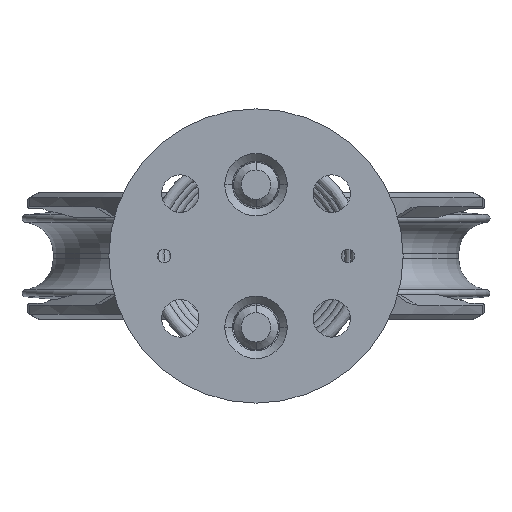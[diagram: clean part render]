
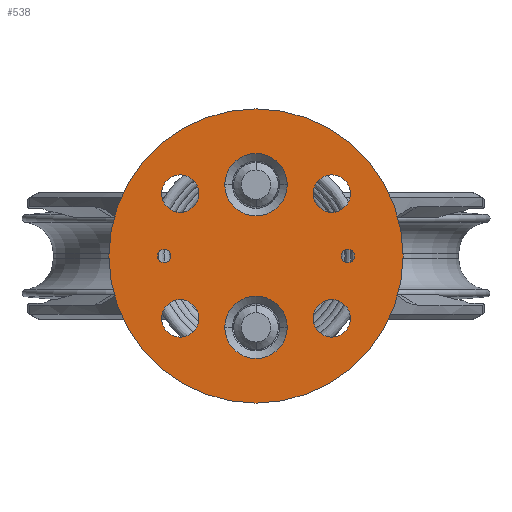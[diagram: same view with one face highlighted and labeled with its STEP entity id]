
A CAD part, front view. The second image highlights one B-rep face of the part: STEP entity #538.
In plain terms, the highlighted planar face has unit normal (0, -1, 0).
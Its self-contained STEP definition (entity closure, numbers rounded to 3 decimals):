
#1=CARTESIAN_POINT('',(-17.,0.,14.));
#2=DIRECTION('',(0.,-1.,0.));
#3=DIRECTION('',(1.,0.,0.));
#4=AXIS2_PLACEMENT_3D('',#1,#2,#3);
#6=CARTESIAN_POINT('',(-17.,0.,14.));
#7=DIRECTION('',(0.,-1.,0.));
#8=DIRECTION('',(-1.,0.,0.));
#9=AXIS2_PLACEMENT_3D('',#6,#7,#8);
#11=CARTESIAN_POINT('',(17.,0.,14.));
#12=DIRECTION('',(0.,-1.,0.));
#13=DIRECTION('',(1.,0.,0.));
#14=AXIS2_PLACEMENT_3D('',#11,#12,#13);
#16=CARTESIAN_POINT('',(17.,0.,14.));
#17=DIRECTION('',(0.,-1.,0.));
#18=DIRECTION('',(-1.,0.,0.));
#19=AXIS2_PLACEMENT_3D('',#16,#17,#18);
#21=CARTESIAN_POINT('',(17.,0.,-14.));
#22=DIRECTION('',(0.,-1.,0.));
#23=DIRECTION('',(1.,0.,0.));
#24=AXIS2_PLACEMENT_3D('',#21,#22,#23);
#26=CARTESIAN_POINT('',(17.,0.,-14.));
#27=DIRECTION('',(0.,-1.,0.));
#28=DIRECTION('',(-1.,0.,0.));
#29=AXIS2_PLACEMENT_3D('',#26,#27,#28);
#31=CARTESIAN_POINT('',(-17.,0.,-14.));
#32=DIRECTION('',(0.,-1.,0.));
#33=DIRECTION('',(1.,0.,0.));
#34=AXIS2_PLACEMENT_3D('',#31,#32,#33);
#36=CARTESIAN_POINT('',(-17.,0.,-14.));
#37=DIRECTION('',(0.,-1.,0.));
#38=DIRECTION('',(-1.,0.,0.));
#39=AXIS2_PLACEMENT_3D('',#36,#37,#38);
#41=CARTESIAN_POINT('',(-20.6,0.,0.));
#42=DIRECTION('',(0.,-1.,0.));
#43=DIRECTION('',(1.,0.,0.));
#44=AXIS2_PLACEMENT_3D('',#41,#42,#43);
#46=CARTESIAN_POINT('',(-20.6,0.,0.));
#47=DIRECTION('',(0.,-1.,0.));
#48=DIRECTION('',(-1.,0.,0.));
#49=AXIS2_PLACEMENT_3D('',#46,#47,#48);
#51=CARTESIAN_POINT('',(20.6,0.,0.));
#52=DIRECTION('',(0.,-1.,0.));
#53=DIRECTION('',(1.,0.,0.));
#54=AXIS2_PLACEMENT_3D('',#51,#52,#53);
#56=CARTESIAN_POINT('',(20.6,0.,0.));
#57=DIRECTION('',(0.,-1.,0.));
#58=DIRECTION('',(-1.,0.,0.));
#59=AXIS2_PLACEMENT_3D('',#56,#57,#58);
#69=CARTESIAN_POINT('',(0.,0.,0.));
#70=DIRECTION('',(0.,1.,0.));
#71=DIRECTION('',(1.,0.,0.));
#72=AXIS2_PLACEMENT_3D('',#69,#70,#71);
#74=CARTESIAN_POINT('',(0.,0.,0.));
#75=DIRECTION('',(0.,-1.,0.));
#76=DIRECTION('',(1.,0.,0.));
#77=AXIS2_PLACEMENT_3D('',#74,#75,#76);
#151=CARTESIAN_POINT('',(0.,0.,16.));
#152=DIRECTION('',(0.,-1.,0.));
#153=DIRECTION('',(1.,0.,0.));
#154=AXIS2_PLACEMENT_3D('',#151,#152,#153);
#161=CARTESIAN_POINT('',(0.,0.,16.));
#162=DIRECTION('',(0.,-1.,0.));
#163=DIRECTION('',(-1.,0.,0.));
#164=AXIS2_PLACEMENT_3D('',#161,#162,#163);
#187=CARTESIAN_POINT('',(0.,0.,-16.));
#188=DIRECTION('',(0.,-1.,0.));
#189=DIRECTION('',(1.,0.,0.));
#190=AXIS2_PLACEMENT_3D('',#187,#188,#189);
#197=CARTESIAN_POINT('',(0.,0.,-16.));
#198=DIRECTION('',(0.,-1.,0.));
#199=DIRECTION('',(-1.,0.,0.));
#200=AXIS2_PLACEMENT_3D('',#197,#198,#199);
#379=CARTESIAN_POINT('',(33.,0.,0.));
#381=VERTEX_POINT('',#379);
#385=CARTESIAN_POINT('',(-33.,0.,0.));
#387=VERTEX_POINT('',#385);
#391=CARTESIAN_POINT('',(-12.8,0.,14.));
#392=CARTESIAN_POINT('',(-21.2,0.,14.));
#393=VERTEX_POINT('',#391);
#394=VERTEX_POINT('',#392);
#395=CARTESIAN_POINT('',(21.2,0.,14.));
#396=CARTESIAN_POINT('',(12.8,0.,14.));
#397=VERTEX_POINT('',#395);
#398=VERTEX_POINT('',#396);
#399=CARTESIAN_POINT('',(21.2,0.,-14.));
#400=CARTESIAN_POINT('',(12.8,0.,-14.));
#401=VERTEX_POINT('',#399);
#402=VERTEX_POINT('',#400);
#403=CARTESIAN_POINT('',(-12.8,0.,-14.));
#404=CARTESIAN_POINT('',(-21.2,0.,-14.));
#405=VERTEX_POINT('',#403);
#406=VERTEX_POINT('',#404);
#415=CARTESIAN_POINT('',(-19.1,0.,0.));
#416=CARTESIAN_POINT('',(-22.1,0.,0.));
#417=VERTEX_POINT('',#415);
#418=VERTEX_POINT('',#416);
#419=CARTESIAN_POINT('',(22.1,0.,0.));
#420=CARTESIAN_POINT('',(19.1,0.,0.));
#421=VERTEX_POINT('',#419);
#422=VERTEX_POINT('',#420);
#463=CARTESIAN_POINT('',(7.,0.,16.));
#464=CARTESIAN_POINT('',(-7.,0.,16.));
#465=VERTEX_POINT('',#463);
#466=VERTEX_POINT('',#464);
#471=CARTESIAN_POINT('',(7.,0.,-16.));
#472=CARTESIAN_POINT('',(-7.,0.,-16.));
#473=VERTEX_POINT('',#471);
#474=VERTEX_POINT('',#472);
#479=CARTESIAN_POINT('',(0.,0.,0.));
#480=DIRECTION('',(0.,-1.,0.));
#481=DIRECTION('',(-1.,0.,0.));
#482=AXIS2_PLACEMENT_3D('',#479,#480,#481);
#483=PLANE('',#482);
#485=ORIENTED_EDGE('',*,*,#484,.T.);
#487=ORIENTED_EDGE('',*,*,#486,.F.);
#488=EDGE_LOOP('',(#485,#487));
#489=FACE_OUTER_BOUND('',#488,.F.);
#491=ORIENTED_EDGE('',*,*,#490,.T.);
#493=ORIENTED_EDGE('',*,*,#492,.T.);
#494=EDGE_LOOP('',(#491,#493));
#495=FACE_BOUND('',#494,.F.);
#497=ORIENTED_EDGE('',*,*,#496,.T.);
#499=ORIENTED_EDGE('',*,*,#498,.T.);
#500=EDGE_LOOP('',(#497,#499));
#501=FACE_BOUND('',#500,.F.);
#503=ORIENTED_EDGE('',*,*,#502,.T.);
#505=ORIENTED_EDGE('',*,*,#504,.T.);
#506=EDGE_LOOP('',(#503,#505));
#507=FACE_BOUND('',#506,.F.);
#509=ORIENTED_EDGE('',*,*,#508,.T.);
#511=ORIENTED_EDGE('',*,*,#510,.T.);
#512=EDGE_LOOP('',(#509,#511));
#513=FACE_BOUND('',#512,.F.);
#515=ORIENTED_EDGE('',*,*,#514,.T.);
#517=ORIENTED_EDGE('',*,*,#516,.T.);
#518=EDGE_LOOP('',(#515,#517));
#519=FACE_BOUND('',#518,.F.);
#521=ORIENTED_EDGE('',*,*,#520,.T.);
#523=ORIENTED_EDGE('',*,*,#522,.T.);
#524=EDGE_LOOP('',(#521,#523));
#525=FACE_BOUND('',#524,.F.);
#527=ORIENTED_EDGE('',*,*,#526,.T.);
#529=ORIENTED_EDGE('',*,*,#528,.T.);
#530=EDGE_LOOP('',(#527,#529));
#531=FACE_BOUND('',#530,.F.);
#533=ORIENTED_EDGE('',*,*,#532,.T.);
#535=ORIENTED_EDGE('',*,*,#534,.T.);
#536=EDGE_LOOP('',(#533,#535));
#537=FACE_BOUND('',#536,.F.);
#538=ADVANCED_FACE('',(#489,#495,#501,#507,#513,#519,#525,#531,#537),#483,.T.);
#5=CIRCLE('',#4,4.2);
#10=CIRCLE('',#9,4.2);
#15=CIRCLE('',#14,4.2);
#20=CIRCLE('',#19,4.2);
#25=CIRCLE('',#24,4.2);
#30=CIRCLE('',#29,4.2);
#35=CIRCLE('',#34,4.2);
#40=CIRCLE('',#39,4.2);
#45=CIRCLE('',#44,1.5);
#50=CIRCLE('',#49,1.5);
#55=CIRCLE('',#54,1.5);
#60=CIRCLE('',#59,1.5);
#73=CIRCLE('',#72,33.);
#78=CIRCLE('',#77,33.);
#155=CIRCLE('',#154,7.);
#165=CIRCLE('',#164,7.);
#191=CIRCLE('',#190,7.);
#201=CIRCLE('',#200,7.);
#484=EDGE_CURVE('',#381,#387,#73,.T.);
#486=EDGE_CURVE('',#381,#387,#78,.T.);
#490=EDGE_CURVE('',#465,#466,#155,.T.);
#492=EDGE_CURVE('',#466,#465,#165,.T.);
#496=EDGE_CURVE('',#473,#474,#191,.T.);
#498=EDGE_CURVE('',#474,#473,#201,.T.);
#502=EDGE_CURVE('',#393,#394,#5,.T.);
#504=EDGE_CURVE('',#394,#393,#10,.T.);
#508=EDGE_CURVE('',#397,#398,#15,.T.);
#510=EDGE_CURVE('',#398,#397,#20,.T.);
#514=EDGE_CURVE('',#401,#402,#25,.T.);
#516=EDGE_CURVE('',#402,#401,#30,.T.);
#520=EDGE_CURVE('',#405,#406,#35,.T.);
#522=EDGE_CURVE('',#406,#405,#40,.T.);
#526=EDGE_CURVE('',#417,#418,#45,.T.);
#528=EDGE_CURVE('',#418,#417,#50,.T.);
#532=EDGE_CURVE('',#421,#422,#55,.T.);
#534=EDGE_CURVE('',#422,#421,#60,.T.);
